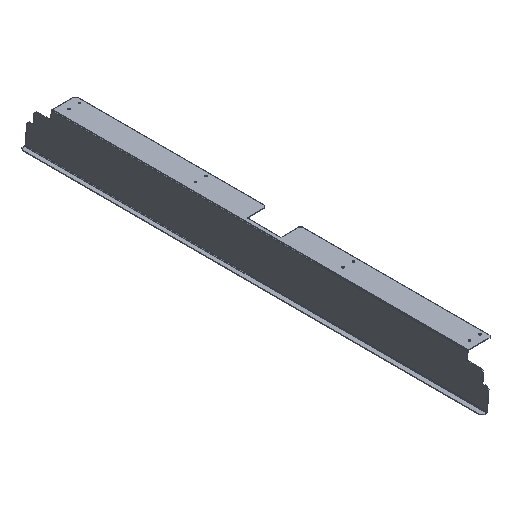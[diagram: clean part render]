
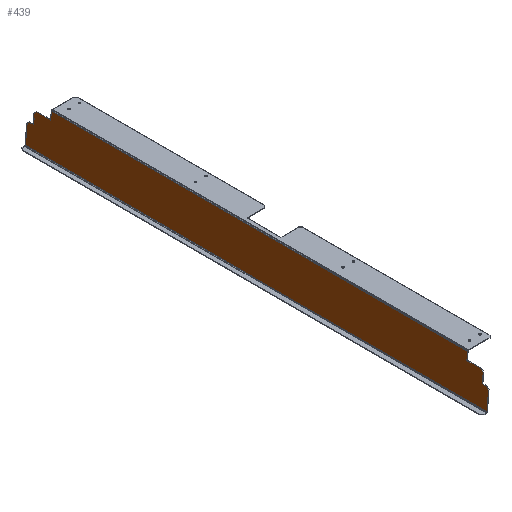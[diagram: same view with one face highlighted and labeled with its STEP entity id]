
A CAD part, isometric view. The second image highlights one B-rep face of the part: STEP entity #439.
In plain terms, the highlighted planar face has unit normal (-0.996, 0, 0.087).
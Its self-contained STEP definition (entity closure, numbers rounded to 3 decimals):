
#3 = EDGE_CURVE ( 'NONE', #364, #61, #42, .T. ) ;
#16 = VECTOR ( 'NONE', #1556, 1000. ) ;
#26 = EDGE_CURVE ( 'NONE', #381, #869, #1423, .T. ) ;
#42 = LINE ( 'NONE', #1685, #82 ) ;
#61 = VERTEX_POINT ( 'NONE', #324 ) ;
#62 = CARTESIAN_POINT ( 'NONE',  ( 9.875, -547.5, 44.286 ) ) ;
#82 = VECTOR ( 'NONE', #772, 1000. ) ;
#112 = DIRECTION ( 'NONE',  ( -0.087, 0., -0.996 ) ) ;
#125 = LINE ( 'NONE', #300, #1189 ) ;
#129 = ORIENTED_EDGE ( 'NONE', *, *, #843, .F. ) ;
#157 = VECTOR ( 'NONE', #655, 1000. ) ;
#172 = LINE ( 'NONE', #664, #1070 ) ;
#203 = VERTEX_POINT ( 'NONE', #491 ) ;
#204 = VERTEX_POINT ( 'NONE', #1852 ) ;
#208 = CARTESIAN_POINT ( 'NONE',  ( 6.08, 547.5, 0.913 ) ) ;
#217 = ORIENTED_EDGE ( 'NONE', *, *, #525, .F. ) ;
#242 = VECTOR ( 'NONE', #252, 1000. ) ;
#249 = DIRECTION ( 'NONE',  ( 0.087, 0., 0.996 ) ) ;
#252 = DIRECTION ( 'NONE',  ( 0.062, 0.707, 0.704 ) ) ;
#300 = CARTESIAN_POINT ( 'NONE',  ( 12.707, -493.5, 76.662 ) ) ;
#304 = CARTESIAN_POINT ( 'NONE',  ( 6., 547.5, 0. ) ) ;
#309 = EDGE_CURVE ( 'NONE', #588, #1234, #1391, .T. ) ;
#324 = CARTESIAN_POINT ( 'NONE',  ( 9.875, 547.5, 44.286 ) ) ;
#338 = CARTESIAN_POINT ( 'NONE',  ( 12.707, 527.5, 76.662 ) ) ;
#350 = CARTESIAN_POINT ( 'NONE',  ( 6.08, -547.5, 0.913 ) ) ;
#354 = EDGE_CURVE ( 'NONE', #852, #1234, #1686, .T. ) ;
#362 = EDGE_CURVE ( 'NONE', #364, #1916, #888, .T. ) ;
#364 = VERTEX_POINT ( 'NONE', #1274 ) ;
#366 = VECTOR ( 'NONE', #249, 1000. ) ;
#368 = CARTESIAN_POINT ( 'NONE',  ( 14.258, 493.5, 94.386 ) ) ;
#373 = EDGE_CURVE ( 'NONE', #204, #1143, #1887, .T. ) ;
#381 = VERTEX_POINT ( 'NONE', #1010 ) ;
#388 = DIRECTION ( 'NONE',  ( 0.062, 0.707, 0.704 ) ) ;
#416 = CARTESIAN_POINT ( 'NONE',  ( 5.954, 0., -0.521 ) ) ;
#429 = LINE ( 'NONE', #1830, #1464 ) ;
#433 = PLANE ( 'NONE',  #1936 ) ;
#437 = DIRECTION ( 'NONE',  ( -0.087, 0., -0.996 ) ) ;
#439 = ADVANCED_FACE ( 'NONE', ( #1346 ), #433, .F. ) ;
#457 = LINE ( 'NONE', #1408, #16 ) ;
#473 = ORIENTED_EDGE ( 'NONE', *, *, #3, .T. ) ;
#490 = ORIENTED_EDGE ( 'NONE', *, *, #354, .T. ) ;
#491 = CARTESIAN_POINT ( 'NONE',  ( 12.707, -493.5, 76.662 ) ) ;
#525 = EDGE_CURVE ( 'NONE', #761, #819, #1129, .T. ) ;
#526 = VECTOR ( 'NONE', #674, 1000. ) ;
#543 = ORIENTED_EDGE ( 'NONE', *, *, #1932, .F. ) ;
#588 = VERTEX_POINT ( 'NONE', #1363 ) ;
#607 = CARTESIAN_POINT ( 'NONE',  ( 14.258, -547.5, 94.386 ) ) ;
#609 = VECTOR ( 'NONE', #1224, 1000. ) ;
#615 = DIRECTION ( 'NONE',  ( -0.062, 0.707, -0.704 ) ) ;
#616 = CARTESIAN_POINT ( 'NONE',  ( 10.31, -532.5, 49.267 ) ) ;
#641 = EDGE_CURVE ( 'NONE', #61, #819, #1627, .T. ) ;
#655 = DIRECTION ( 'NONE',  ( 0.087, 0., 0.996 ) ) ;
#664 = CARTESIAN_POINT ( 'NONE',  ( 12.707, -532.5, 76.662 ) ) ;
#674 = DIRECTION ( 'NONE',  ( 0., -1., 0. ) ) ;
#677 = ORIENTED_EDGE ( 'NONE', *, *, #309, .F. ) ;
#687 = VERTEX_POINT ( 'NONE', #1073 ) ;
#689 = EDGE_CURVE ( 'NONE', #1278, #1755, #429, .T. ) ;
#709 = CARTESIAN_POINT ( 'NONE',  ( 12.707, -527.5, 76.662 ) ) ;
#713 = VECTOR ( 'NONE', #1805, 1000. ) ;
#746 = CARTESIAN_POINT ( 'NONE',  ( 6.08, -547.5, 0.913 ) ) ;
#761 = VERTEX_POINT ( 'NONE', #350 ) ;
#772 = DIRECTION ( 'NONE',  ( -0.062, 0.707, -0.704 ) ) ;
#819 = VERTEX_POINT ( 'NONE', #208 ) ;
#829 = EDGE_CURVE ( 'NONE', #761, #852, #1098, .T. ) ;
#831 = CARTESIAN_POINT ( 'NONE',  ( 12.271, -532.5, 71.681 ) ) ;
#843 = EDGE_CURVE ( 'NONE', #1916, #687, #457, .T. ) ;
#852 = VERTEX_POINT ( 'NONE', #62 ) ;
#869 = VERTEX_POINT ( 'NONE', #368 ) ;
#888 = LINE ( 'NONE', #1265, #526 ) ;
#942 = VECTOR ( 'NONE', #388, 1000. ) ;
#945 = VECTOR ( 'NONE', #1747, 1000. ) ;
#958 = EDGE_CURVE ( 'NONE', #1755, #869, #1490, .T. ) ;
#996 = CARTESIAN_POINT ( 'NONE',  ( 12.707, 493.5, 76.662 ) ) ;
#999 = ORIENTED_EDGE ( 'NONE', *, *, #26, .T. ) ;
#1005 = CARTESIAN_POINT ( 'NONE',  ( 10.31, -542.5, 49.267 ) ) ;
#1010 = CARTESIAN_POINT ( 'NONE',  ( 14.258, -493.5, 94.386 ) ) ;
#1070 = VECTOR ( 'NONE', #1864, 1000. ) ;
#1073 = CARTESIAN_POINT ( 'NONE',  ( 12.271, 532.5, 71.681 ) ) ;
#1098 = LINE ( 'NONE', #1727, #157 ) ;
#1118 = ORIENTED_EDGE ( 'NONE', *, *, #362, .F. ) ;
#1129 = LINE ( 'NONE', #746, #713 ) ;
#1136 = VECTOR ( 'NONE', #1497, 1000. ) ;
#1143 = VERTEX_POINT ( 'NONE', #709 ) ;
#1189 = VECTOR ( 'NONE', #437, 1000. ) ;
#1224 = DIRECTION ( 'NONE',  ( -0.087, 0., -0.996 ) ) ;
#1234 = VERTEX_POINT ( 'NONE', #1005 ) ;
#1265 = CARTESIAN_POINT ( 'NONE',  ( 10.31, 547.5, 49.267 ) ) ;
#1274 = CARTESIAN_POINT ( 'NONE',  ( 10.31, 542.5, 49.267 ) ) ;
#1278 = VERTEX_POINT ( 'NONE', #1585 ) ;
#1279 = CARTESIAN_POINT ( 'NONE',  ( 9.875, -547.5, 44.286 ) ) ;
#1332 = ORIENTED_EDGE ( 'NONE', *, *, #958, .F. ) ;
#1346 = FACE_OUTER_BOUND ( 'NONE', #1537, .T. ) ;
#1350 = ORIENTED_EDGE ( 'NONE', *, *, #1577, .F. ) ;
#1361 = DIRECTION ( 'NONE',  ( 0., 1., 0. ) ) ;
#1363 = CARTESIAN_POINT ( 'NONE',  ( 10.31, -532.5, 49.267 ) ) ;
#1385 = EDGE_CURVE ( 'NONE', #1278, #687, #1632, .T. ) ;
#1390 = CARTESIAN_POINT ( 'NONE',  ( 10.31, 532.5, 49.267 ) ) ;
#1391 = LINE ( 'NONE', #1724, #945 ) ;
#1408 = CARTESIAN_POINT ( 'NONE',  ( 10.31, 532.5, 49.267 ) ) ;
#1423 = LINE ( 'NONE', #607, #1942 ) ;
#1460 = CARTESIAN_POINT ( 'NONE',  ( 12.707, 493.5, 76.662 ) ) ;
#1464 = VECTOR ( 'NONE', #1547, 1000. ) ;
#1466 = ORIENTED_EDGE ( 'NONE', *, *, #1385, .T. ) ;
#1490 = LINE ( 'NONE', #1460, #366 ) ;
#1497 = DIRECTION ( 'NONE',  ( -0.087, 0., -0.996 ) ) ;
#1537 = EDGE_LOOP ( 'NONE', ( #543, #1879, #1350, #1622, #999, #1332, #1873, #1466, #129, #1118, #473, #1543, #217, #1602, #490, #677 ) ) ;
#1543 = ORIENTED_EDGE ( 'NONE', *, *, #641, .T. ) ;
#1547 = DIRECTION ( 'NONE',  ( 0., -1., 0. ) ) ;
#1556 = DIRECTION ( 'NONE',  ( 0.087, 0., 0.996 ) ) ;
#1577 = EDGE_CURVE ( 'NONE', #203, #1143, #172, .T. ) ;
#1585 = CARTESIAN_POINT ( 'NONE',  ( 12.707, 527.5, 76.662 ) ) ;
#1601 = VECTOR ( 'NONE', #615, 1000. ) ;
#1602 = ORIENTED_EDGE ( 'NONE', *, *, #829, .T. ) ;
#1622 = ORIENTED_EDGE ( 'NONE', *, *, #1848, .F. ) ;
#1627 = LINE ( 'NONE', #304, #1136 ) ;
#1632 = LINE ( 'NONE', #338, #1601 ) ;
#1685 = CARTESIAN_POINT ( 'NONE',  ( 10.31, 542.5, 49.267 ) ) ;
#1686 = LINE ( 'NONE', #1279, #942 ) ;
#1724 = CARTESIAN_POINT ( 'NONE',  ( 10.31, -547.5, 49.267 ) ) ;
#1727 = CARTESIAN_POINT ( 'NONE',  ( 14.338, -547.5, 95.299 ) ) ;
#1747 = DIRECTION ( 'NONE',  ( 0., -1., 0. ) ) ;
#1755 = VERTEX_POINT ( 'NONE', #996 ) ;
#1771 = LINE ( 'NONE', #616, #609 ) ;
#1805 = DIRECTION ( 'NONE',  ( 0., 1., 0. ) ) ;
#1830 = CARTESIAN_POINT ( 'NONE',  ( 12.707, 532.5, 76.662 ) ) ;
#1848 = EDGE_CURVE ( 'NONE', #381, #203, #125, .T. ) ;
#1852 = CARTESIAN_POINT ( 'NONE',  ( 12.271, -532.5, 71.681 ) ) ;
#1864 = DIRECTION ( 'NONE',  ( 0., -1., 0. ) ) ;
#1873 = ORIENTED_EDGE ( 'NONE', *, *, #689, .F. ) ;
#1879 = ORIENTED_EDGE ( 'NONE', *, *, #373, .T. ) ;
#1887 = LINE ( 'NONE', #831, #242 ) ;
#1916 = VERTEX_POINT ( 'NONE', #1390 ) ;
#1919 = DIRECTION ( 'NONE',  ( 0.996, 0., -0.087 ) ) ;
#1932 = EDGE_CURVE ( 'NONE', #204, #588, #1771, .T. ) ;
#1936 = AXIS2_PLACEMENT_3D ( 'NONE', #416, #1919, #112 ) ;
#1942 = VECTOR ( 'NONE', #1361, 1000. ) ;
